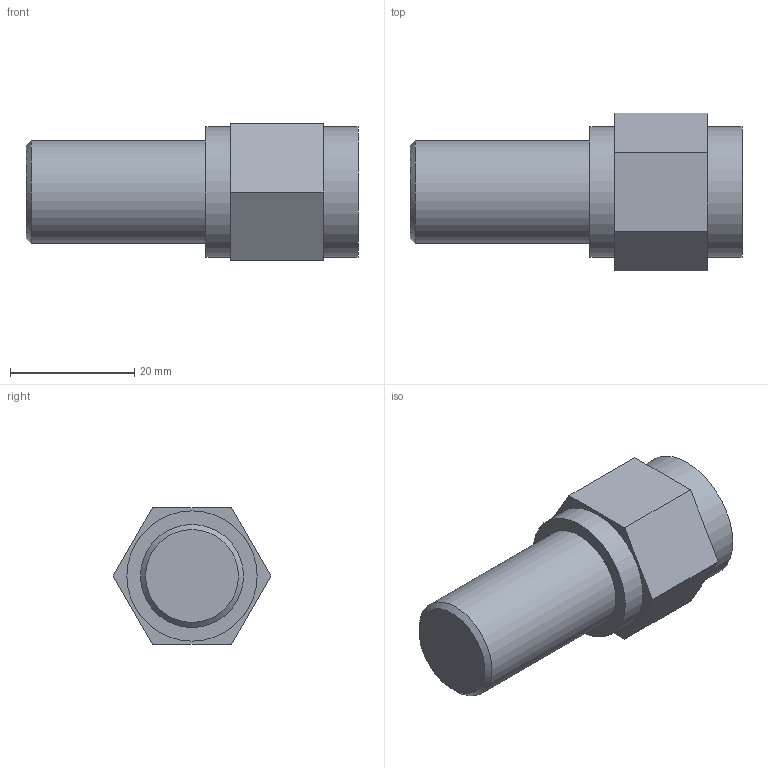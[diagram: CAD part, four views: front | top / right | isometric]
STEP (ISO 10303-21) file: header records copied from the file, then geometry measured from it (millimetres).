
FILE_DESCRIPTION( ( 'STEP AP203' ), '1' );
FILE_NAME( 'p:/temp/worker_149/temp/exporttempdir_2624_141_wNCBA/format_1/50A38U.stp', '2021-02-05T06:49:31', ( 'License CC BY-ND 4.0' ), ( 'CADENAS' ), ' ', 'PARTsolutions', ' ' );
FILE_SCHEMA( ( 'CONFIG_CONTROL_DESIGN' ) );
Length unit declared in the file: millimetre
Products named in the file (1): _50A38U
Bounding box: 53.5 x 25.4 x 22 mm (x, y, z)
Volume: 15767.5 mm3; surface area: 4157 mm2
Topology: 1 solids, 1 shells, 18 faces, 36 edges, 23 vertices
Faces by surface type: plane 11, cylinder 4, cone 3
Full cylindrical faces by diameter (mm): 4.134 x1, 16.602 x1, 21 x2
Entity records: 470 total; most frequent: DIRECTION 76, CARTESIAN_POINT 70, ORIENTED_EDGE 56, AXIS2_PLACEMENT_3D 29, EDGE_LOOP 28, EDGE_CURVE 28, VERTEX_POINT 23, FACE_OUTER_BOUND 22
